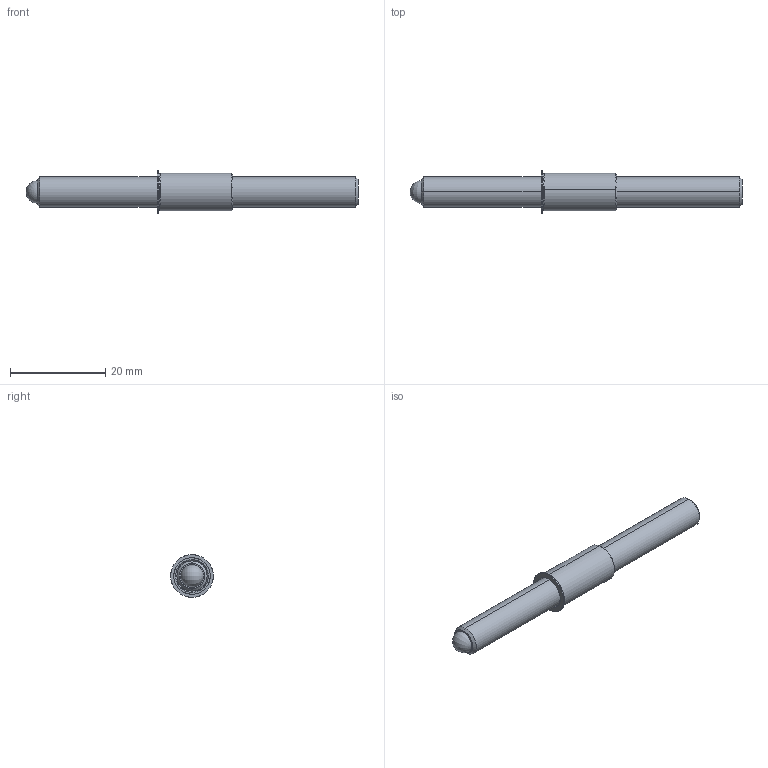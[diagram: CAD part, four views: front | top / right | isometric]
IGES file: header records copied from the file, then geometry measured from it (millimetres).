
Start section: SolidWorks IGES file using analytic representation for surfaces
Global section: file name: C:\Users\workpc\Desktop\KMA Solidworks\TSB250-80-2750_625-AA.IGS; native system: SolidWorks 2013; preprocessor: SolidWorks 2013; author: workpc; date: 130314.092201; units: inch
Bounding box: 69.85 x 8.94 x 8.94 mm (x, y, z)
Surface area: 1926.1 mm2 (no closed solid volume)
Topology: 0 solids, 0 shells, 33 faces, 406 edges, 402 vertices
Faces by surface type: revolution 22, bspline 11
